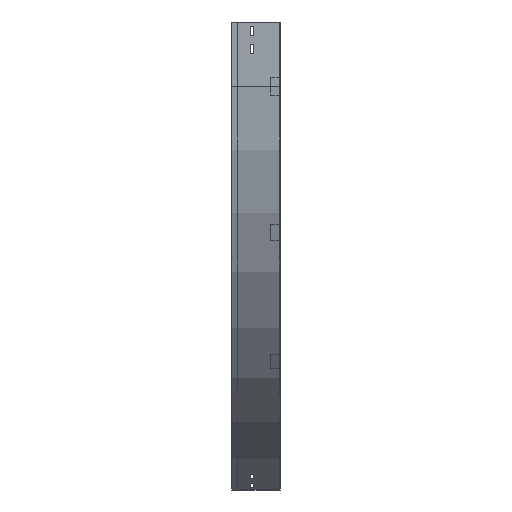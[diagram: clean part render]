
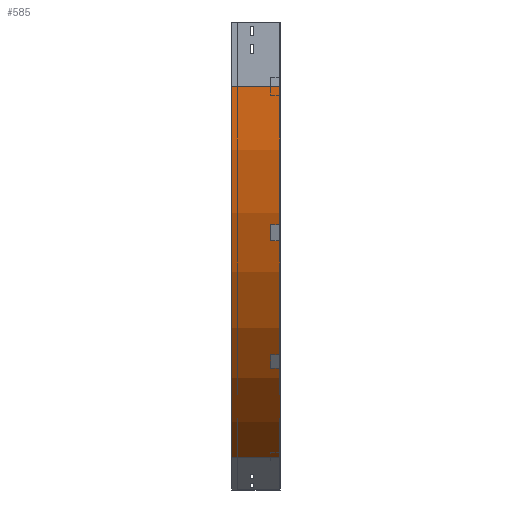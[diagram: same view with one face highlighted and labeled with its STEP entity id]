
A CAD part, left-side view. The second image highlights one B-rep face of the part: STEP entity #585.
In plain terms, the highlighted cylindrical face has radius 1000 mm (diameter 2000 mm), a partial arc.
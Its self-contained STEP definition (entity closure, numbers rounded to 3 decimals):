
#127 = CARTESIAN_POINT ( 'NONE',  ( 1000., 0., -150. ) ) ;
#257 = AXIS2_PLACEMENT_3D ( 'NONE', #127, #2573, #1946 ) ;
#300 = ORIENTED_EDGE ( 'NONE', *, *, #1470, .F. ) ;
#318 = CIRCLE ( 'NONE', #567, 1000. ) ;
#452 = VERTEX_POINT ( 'NONE', #2071 ) ;
#489 = CARTESIAN_POINT ( 'NONE',  ( 0., 0., -150. ) ) ;
#565 = CIRCLE ( 'NONE', #257, 1000. ) ;
#567 = AXIS2_PLACEMENT_3D ( 'NONE', #1584, #1352, #1645 ) ;
#585 = ADVANCED_FACE ( 'NONE', ( #1615 ), #3626, .T. ) ;
#596 = CARTESIAN_POINT ( 'NONE',  ( 500., 0., -1016.025 ) ) ;
#686 = CARTESIAN_POINT ( 'NONE',  ( 500., 0., -1016.025 ) ) ;
#697 = DIRECTION ( 'NONE',  ( 0., -1., 0. ) ) ;
#886 = CARTESIAN_POINT ( 'NONE',  ( 0., 112.5, -150. ) ) ;
#1103 = DIRECTION ( 'NONE',  ( 0., -1., 0. ) ) ;
#1298 = CARTESIAN_POINT ( 'NONE',  ( 1000., 0., -150. ) ) ;
#1352 = DIRECTION ( 'NONE',  ( 0., -1., 0. ) ) ;
#1470 = EDGE_CURVE ( 'NONE', #3741, #3455, #2739, .T. ) ;
#1539 = CARTESIAN_POINT ( 'NONE',  ( 0., 0., -150. ) ) ;
#1565 = VECTOR ( 'NONE', #1103, 1000. ) ;
#1584 = CARTESIAN_POINT ( 'NONE',  ( 1000., 112.5, -150. ) ) ;
#1615 = FACE_OUTER_BOUND ( 'NONE', #3107, .T. ) ;
#1645 = DIRECTION ( 'NONE',  ( -1., 0., 0. ) ) ;
#1946 = DIRECTION ( 'NONE',  ( -1., 0., 0. ) ) ;
#2071 = CARTESIAN_POINT ( 'NONE',  ( 500., 112.5, -1016.025 ) ) ;
#2140 = ORIENTED_EDGE ( 'NONE', *, *, #2760, .T. ) ;
#2419 = AXIS2_PLACEMENT_3D ( 'NONE', #1298, #697, #2797 ) ;
#2573 = DIRECTION ( 'NONE',  ( 0., -1., 0. ) ) ;
#2615 = EDGE_CURVE ( 'NONE', #3455, #3323, #565, .T. ) ;
#2722 = DIRECTION ( 'NONE',  ( 0., -1., 0. ) ) ;
#2739 = LINE ( 'NONE', #1539, #3843 ) ;
#2760 = EDGE_CURVE ( 'NONE', #452, #3323, #3265, .T. ) ;
#2797 = DIRECTION ( 'NONE',  ( 0., 0., -1. ) ) ;
#3022 = ORIENTED_EDGE ( 'NONE', *, *, #3298, .T. ) ;
#3107 = EDGE_LOOP ( 'NONE', ( #3157, #300, #3022, #2140 ) ) ;
#3157 = ORIENTED_EDGE ( 'NONE', *, *, #2615, .F. ) ;
#3265 = LINE ( 'NONE', #596, #1565 ) ;
#3298 = EDGE_CURVE ( 'NONE', #3741, #452, #318, .T. ) ;
#3323 = VERTEX_POINT ( 'NONE', #686 ) ;
#3455 = VERTEX_POINT ( 'NONE', #489 ) ;
#3626 = CYLINDRICAL_SURFACE ( 'NONE', #2419, 1000. ) ;
#3741 = VERTEX_POINT ( 'NONE', #886 ) ;
#3843 = VECTOR ( 'NONE', #2722, 1000. ) ;
